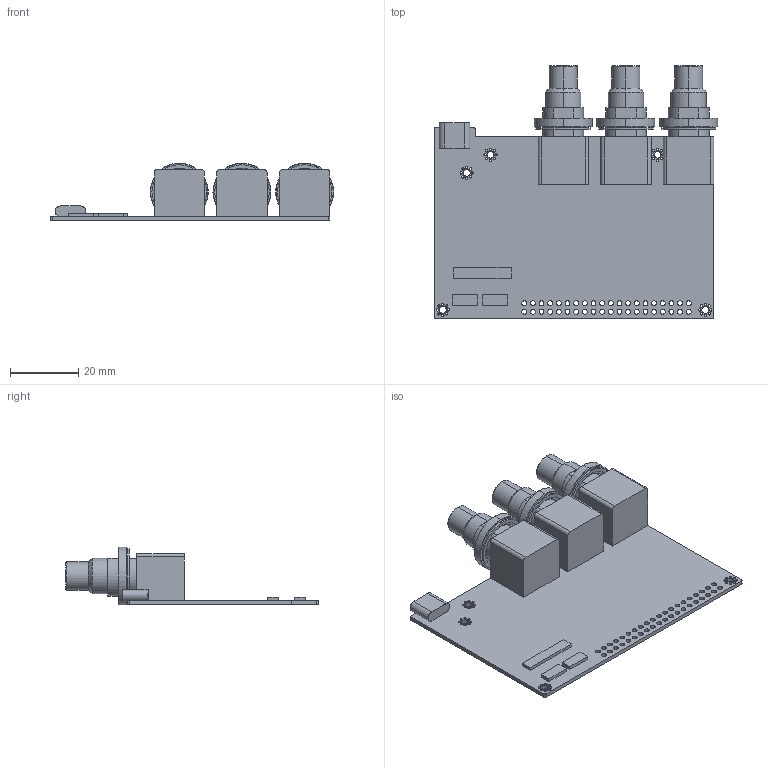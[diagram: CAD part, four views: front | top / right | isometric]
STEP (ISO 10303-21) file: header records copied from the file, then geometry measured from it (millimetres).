
FILE_DESCRIPTION (( 'STEP AP214' ), '1' );
FILE_NAME ('Tone Board v13.STEP', '2019-02-26T09:55:33', ( '' ), ( '' ), 'SwSTEP 2.0', 'SolidWorks 2018', '' );
FILE_SCHEMA (( 'AUTOMOTIVE_DESIGN' ));
Length unit declared in the file: millimetre
Products named in the file (1): Tone Board v13
Bounding box: 83.11 x 74.15 x 17 mm (x, y, z)
Volume: 19896.9 mm3; surface area: 17556.5 mm2
Topology: 14 solids, 14 shells, 347 faces, 888 edges, 576 vertices
Faces by surface type: cylinder 234, plane 77, cone 30, torus 6
Entity records: 11237 total; most frequent: DIRECTION 2088, CARTESIAN_POINT 1812, ORIENTED_EDGE 1776, EDGE_CURVE 888, AXIS2_PLACEMENT_3D 852, VERTEX_POINT 576, EDGE_LOOP 536, CIRCLE 504
